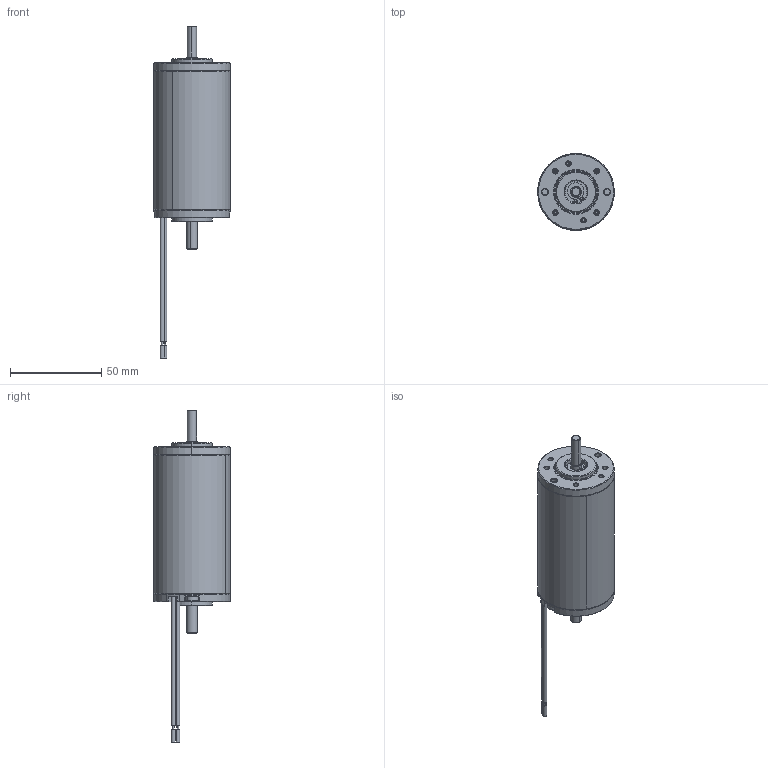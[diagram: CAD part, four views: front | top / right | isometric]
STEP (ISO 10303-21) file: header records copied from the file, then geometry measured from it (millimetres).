
FILE_DESCRIPTION (( 'STEP AP214' ), '1' );
FILE_NAME ('BRx42-40 Motor Assy.STEP', '2023-07-03T15:37:17', ( '' ), ( '' ), 'SwSTEP 2.0', 'SolidWorks 2020', '' );
FILE_SCHEMA (( 'AUTOMOTIVE_DESIGN' ));
Length unit declared in the file: millimetre
Products named in the file (1): BRx42-40 Motor Assy
Bounding box: 42 x 42 x 181.6 mm (x, y, z)
Volume: 35385.4 mm3; surface area: 37026.6 mm2
Topology: 14 solids, 14 shells, 1373 faces, 3289 edges, 2051 vertices
Faces by surface type: plane 481, cone 251, cylinder 226, torus 210, bspline 181, sphere 24
Entity records: 63766 total; most frequent: CARTESIAN_POINT 17526, ORIENTED_EDGE 6562, DIRECTION 6283, EDGE_CURVE 3281, AXIS2_PLACEMENT_3D 2542, VERTEX_POINT 2051, EDGE_LOOP 1514, UNCERTAINTY_MEASURE_WITH_UNIT 1389
